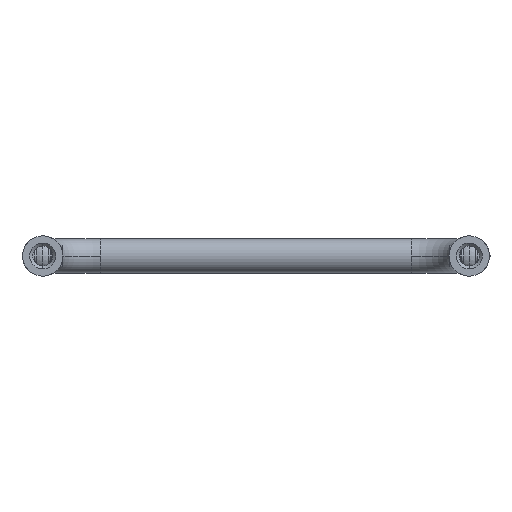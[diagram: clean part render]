
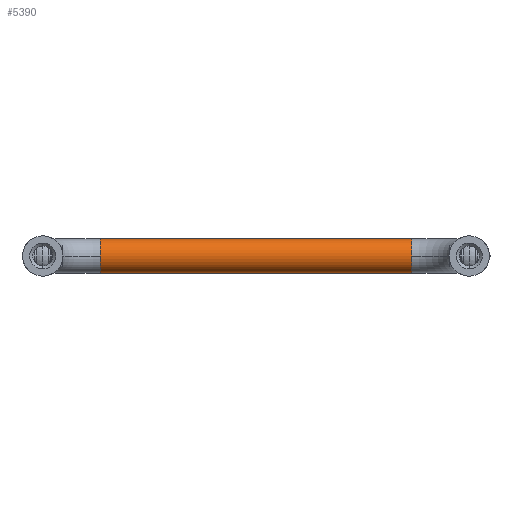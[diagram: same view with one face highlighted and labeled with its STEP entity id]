
A CAD part, front view. The second image highlights one B-rep face of the part: STEP entity #5390.
In plain terms, the highlighted cylindrical face has radius 3 mm (diameter 6 mm), a partial arc.
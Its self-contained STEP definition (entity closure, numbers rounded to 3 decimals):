
#215 = CARTESIAN_POINT ( 'NONE',  ( -27., 34.682, 3. ) ) ;
#411 = AXIS2_PLACEMENT_3D ( 'NONE', #7747, #5469, #5994 ) ;
#554 = CARTESIAN_POINT ( 'NONE',  ( 27., 34.682, 0. ) ) ;
#648 = VERTEX_POINT ( 'NONE', #6510 ) ;
#866 = ORIENTED_EDGE ( 'NONE', *, *, #1074, .F. ) ;
#903 = DIRECTION ( 'NONE',  ( -1., 0., 0. ) ) ;
#908 = AXIS2_PLACEMENT_3D ( 'NONE', #554, #5000, #3006 ) ;
#944 = DIRECTION ( 'NONE',  ( 0., 0., 1. ) ) ;
#1005 = DIRECTION ( 'NONE',  ( 1., 0., 0. ) ) ;
#1074 = EDGE_CURVE ( 'NONE', #4480, #4487, #2782, .T. ) ;
#1563 = CIRCLE ( 'NONE', #411, 3. ) ;
#1573 = VERTEX_POINT ( 'NONE', #5536 ) ;
#1592 = LINE ( 'NONE', #215, #4745 ) ;
#1605 = ORIENTED_EDGE ( 'NONE', *, *, #5932, .T. ) ;
#1727 = EDGE_CURVE ( 'NONE', #4480, #648, #4030, .T. ) ;
#1930 = DIRECTION ( 'NONE',  ( 0., 0., 1. ) ) ;
#1957 = ORIENTED_EDGE ( 'NONE', *, *, #3812, .F. ) ;
#1970 = CARTESIAN_POINT ( 'NONE',  ( -27., 34.682, 0. ) ) ;
#2254 = CARTESIAN_POINT ( 'NONE',  ( -27., 34.682, -3. ) ) ;
#2326 = CARTESIAN_POINT ( 'NONE',  ( -27., 34.682, 0. ) ) ;
#2482 = EDGE_LOOP ( 'NONE', ( #1957, #4570, #866, #4910, #1605, #3891 ) ) ;
#2567 = VECTOR ( 'NONE', #3269, 1000. ) ;
#2782 = CIRCLE ( 'NONE', #7264, 3. ) ;
#3006 = DIRECTION ( 'NONE',  ( 0., 0., 1. ) ) ;
#3212 = DIRECTION ( 'NONE',  ( -1., 0., 0. ) ) ;
#3269 = DIRECTION ( 'NONE',  ( 1., 0., 0. ) ) ;
#3751 = CIRCLE ( 'NONE', #5030, 3. ) ;
#3812 = EDGE_CURVE ( 'NONE', #7848, #1573, #1592, .T. ) ;
#3864 = CIRCLE ( 'NONE', #908, 3. ) ;
#3891 = ORIENTED_EDGE ( 'NONE', *, *, #6879, .T. ) ;
#4030 = LINE ( 'NONE', #2254, #2567 ) ;
#4236 = CARTESIAN_POINT ( 'NONE',  ( -27., 34.682, 3. ) ) ;
#4480 = VERTEX_POINT ( 'NONE', #7816 ) ;
#4487 = VERTEX_POINT ( 'NONE', #6499 ) ;
#4570 = ORIENTED_EDGE ( 'NONE', *, *, #6851, .F. ) ;
#4745 = VECTOR ( 'NONE', #5890, 1000. ) ;
#4783 = DIRECTION ( 'NONE',  ( 0., 0., -1. ) ) ;
#4910 = ORIENTED_EDGE ( 'NONE', *, *, #1727, .T. ) ;
#5000 = DIRECTION ( 'NONE',  ( -1., 0., 0. ) ) ;
#5030 = AXIS2_PLACEMENT_3D ( 'NONE', #6361, #903, #944 ) ;
#5390 = ADVANCED_FACE ( 'NONE', ( #7820 ), #6502, .T. ) ;
#5469 = DIRECTION ( 'NONE',  ( -1., 0., 0. ) ) ;
#5536 = CARTESIAN_POINT ( 'NONE',  ( 27., 34.682, 3. ) ) ;
#5866 = VERTEX_POINT ( 'NONE', #7445 ) ;
#5890 = DIRECTION ( 'NONE',  ( 1., 0., 0. ) ) ;
#5932 = EDGE_CURVE ( 'NONE', #648, #5866, #3864, .T. ) ;
#5994 = DIRECTION ( 'NONE',  ( 0., 0., 1. ) ) ;
#6361 = CARTESIAN_POINT ( 'NONE',  ( 27., 34.682, 0. ) ) ;
#6499 = CARTESIAN_POINT ( 'NONE',  ( -27., 31.682, 0. ) ) ;
#6502 = CYLINDRICAL_SURFACE ( 'NONE', #7825, 3. ) ;
#6510 = CARTESIAN_POINT ( 'NONE',  ( 27., 34.682, -3. ) ) ;
#6851 = EDGE_CURVE ( 'NONE', #4487, #7848, #1563, .T. ) ;
#6879 = EDGE_CURVE ( 'NONE', #5866, #1573, #3751, .T. ) ;
#7264 = AXIS2_PLACEMENT_3D ( 'NONE', #1970, #3212, #1930 ) ;
#7445 = CARTESIAN_POINT ( 'NONE',  ( 27., 31.682, 0. ) ) ;
#7747 = CARTESIAN_POINT ( 'NONE',  ( -27., 34.682, 0. ) ) ;
#7816 = CARTESIAN_POINT ( 'NONE',  ( -27., 34.682, -3. ) ) ;
#7820 = FACE_OUTER_BOUND ( 'NONE', #2482, .T. ) ;
#7825 = AXIS2_PLACEMENT_3D ( 'NONE', #2326, #1005, #4783 ) ;
#7848 = VERTEX_POINT ( 'NONE', #4236 ) ;
